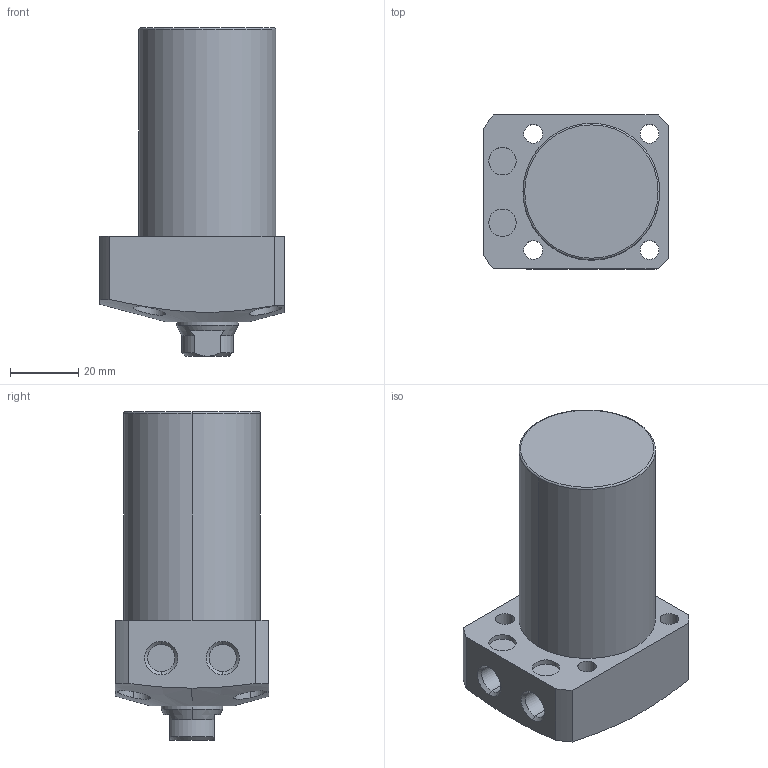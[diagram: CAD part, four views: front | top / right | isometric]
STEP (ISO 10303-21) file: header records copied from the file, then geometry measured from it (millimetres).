
FILE_DESCRIPTION (( 'STEP AP203' ), '1' );
FILE_NAME ('CLL-0400-CA-50.STEP', '2017-05-09T05:34:37', ( '' ), ( '' ), 'SwSTEP 2.0', 'SolidWorks 2015', '' );
FILE_SCHEMA (( 'CONFIG_CONTROL_DESIGN' ));
Length unit declared in the file: millimetre
Products named in the file (1): CLL-0400-CA-50
Bounding box: 54 x 45 x 96 mm (x, y, z)
Volume: 128100.9 mm3; surface area: 19564.8 mm2
Topology: 1 solids, 1 shells, 74 faces, 170 edges, 107 vertices
Faces by surface type: cylinder 35, plane 22, cone 15, torus 2
Entity records: 2512 total; most frequent: CARTESIAN_POINT 725, DIRECTION 374, ORIENTED_EDGE 336, EDGE_CURVE 168, AXIS2_PLACEMENT_3D 155, VERTEX_POINT 107, EDGE_LOOP 93, CIRCLE 80
